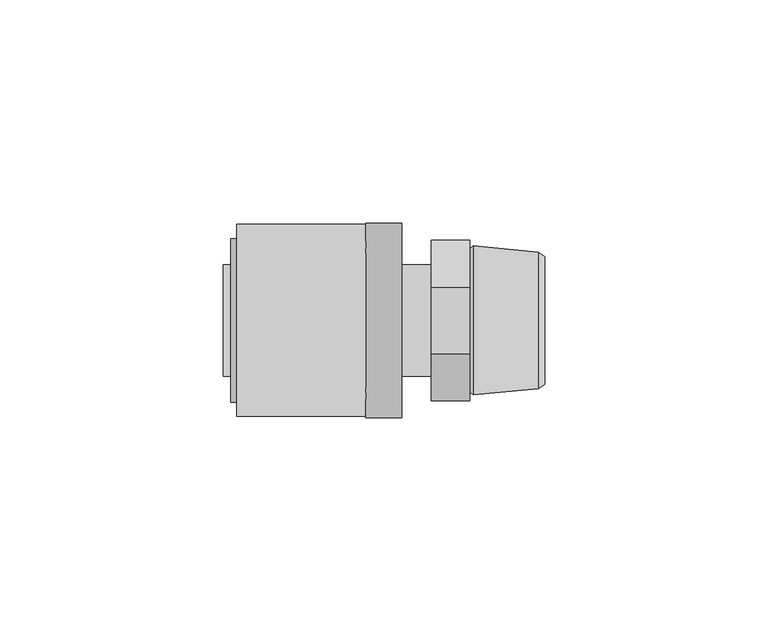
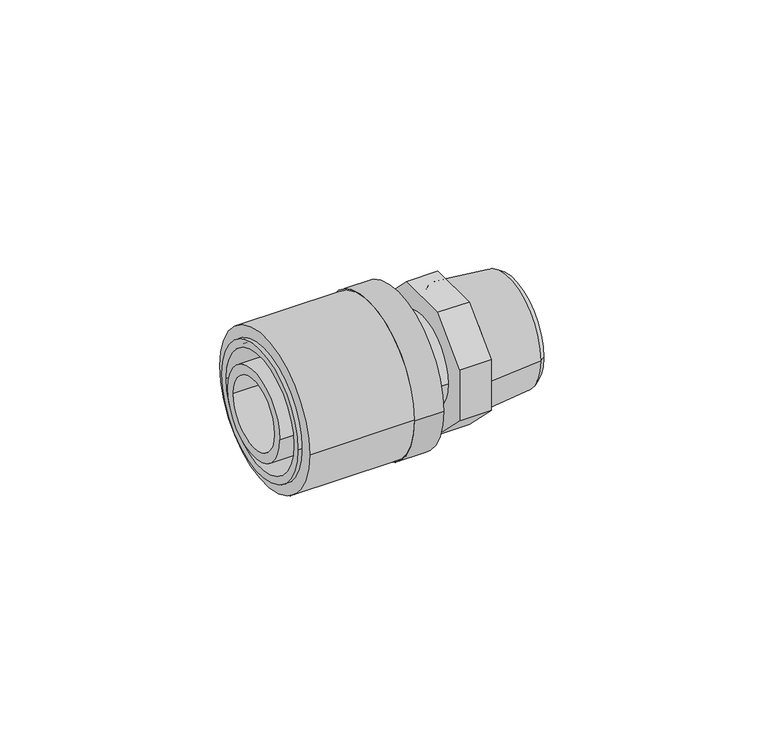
"""IFC4 building model written with IfcOpenShell, lengths in millimetres: pipe fitting geometry, FASTLOC_Adapter_LX, with external thread : FSL A C external CZ."""

from ifc_helpers import new_model, si_unit, point, frame, origin, origin_2d, place, context, project, spatial, polyline, circle_curve, trimmed, segment, composite_curve, outline, extrude, source, transform, mapped, element, save
from ifc_brep_helpers import plane_surface, cylinder_surface, revolved_surface, advanced_brep


def pipe_fitting_b01d00d0(model_context):
    return source(origin(), model_context, "Body", "SolidModel", [
        extrude(outline(composite_curve([segment(trimmed(circle_curve(origin_2d(), 21.5), [point((21.5, 0.0))], [point((-21.5, 0.0))], False, "CARTESIAN"), True, "CONTINUOUS"), segment(trimmed(circle_curve(origin_2d(), 21.5), [point((-21.5, 0.0))], [point((21.5, 0.0))], False, "CARTESIAN"), True, "CONTINUOUS")], self_intersect=False), holes=[composite_curve([segment(trimmed(circle_curve(origin_2d(), 16.85), [point((16.85, 0.0))], [point((-16.85, 0.0))], True, "CARTESIAN"), True, "CONTINUOUS"), segment(trimmed(circle_curve(origin_2d(), 16.85), [point((-16.85, 0.0))], [point((16.85, 0.0))], True, "CARTESIAN"), True, "CONTINUOUS")], self_intersect=False)]), frame((-43.6, 0.0, 0.0), z_axis=(1.0, 0.0, 0.0), x_axis=(0.0, 1.0, 0.0)), (0.0, 0.0, 1.0), 29.0),
        advanced_brep(
        [(-14.6, -21.8, 0.0), (-14.6, 21.8, 0.0), (-6.6, 21.8, 0.0), (-6.6, -21.8, 0.0), (-44.9, -18.35, 0.0), (-44.9, 18.35, 0.0), (-14.6, 18.35, 0.0), (-14.6, -18.35, 0.0), (-6.6, -16.2, 0.0), (-6.6, 16.2, 0.0), (-44.9, 16.2, 0.0), (-44.9, -16.2, 0.0)],
        [
            (0, 1, circle_curve(frame((-14.6, 0.0, 0.0), z_axis=(1.0, 0.0, 0.0), x_axis=(0.0, 1.0, 0.0)), 21.8)),
            (1, 2),
            (2, 3, circle_curve(frame((-6.6, 0.0, 0.0), z_axis=(-1.0, 0.0, 0.0), x_axis=(0.0, 1.0, 0.0)), 21.8)),
            (3, 0),
            (4, 5, circle_curve(frame((-44.9, 0.0, 0.0), z_axis=(1.0, 0.0, 0.0), x_axis=(0.0, 1.0, 0.0)), 18.35)),
            (5, 6),
            (6, 7, circle_curve(frame((-14.6, 0.0, 0.0), z_axis=(-1.0, 0.0, 0.0), x_axis=(0.0, 1.0, 0.0)), 18.35)),
            (7, 4),
            (8, 9, circle_curve(frame((-6.6, 0.0, 0.0), z_axis=(1.0, 0.0, 0.0), x_axis=(0.0, 1.0, 0.0)), 16.2)),
            (9, 10),
            (10, 11, circle_curve(frame((-44.9, 0.0, 0.0), z_axis=(-1.0, 0.0, 0.0), x_axis=(0.0, 1.0, 0.0)), 16.2)),
            (11, 8),
            (1, 0, circle_curve(frame((-14.6, 0.0, 0.0), z_axis=(1.0, 0.0, 0.0), x_axis=(0.0, -1.0, 0.0)), 21.8)),
            (3, 2, circle_curve(frame((-6.6, 0.0, 0.0), z_axis=(-1.0, 0.0, 0.0), x_axis=(0.0, -1.0, 0.0)), 21.8)),
            (6, 7, circle_curve(frame((-14.6, 0.0, 0.0), z_axis=(1.0, 0.0, 0.0), x_axis=(0.0, -1.0, 0.0)), 18.35)),
            (5, 4, circle_curve(frame((-44.9, 0.0, 0.0), z_axis=(1.0, 0.0, 0.0), x_axis=(0.0, -1.0, 0.0)), 18.35)),
            (10, 11, circle_curve(frame((-44.9, 0.0, 0.0), z_axis=(1.0, 0.0, 0.0), x_axis=(0.0, -1.0, 0.0)), 16.2)),
            (9, 8, circle_curve(frame((-6.6, 0.0, 0.0), z_axis=(1.0, 0.0, 0.0), x_axis=(0.0, -1.0, 0.0)), 16.2)),
        ],
        [
            cylinder_surface(frame((-6.6, 0.0, 0.0), z_axis=(-1.0, 0.0, 0.0), x_axis=(0.0, 1.0, 0.0)), 21.8),
            cylinder_surface(frame((-6.6, 0.0, 0.0), z_axis=(-1.0, 0.0, 0.0), x_axis=(0.0, 1.0, 0.0)), 18.35),
            revolved_surface(polyline([(-44.9, 16.2, 0.0), (-6.6, 16.2, 0.0)]), (-6.6, 0.0, 0.0), (-1.0, 0.0, 0.0)),
            cylinder_surface(frame((-6.6, 0.0, 0.0), z_axis=(-1.0, 0.0, 0.0), x_axis=(0.0, -1.0, 0.0)), 21.8),
            plane_surface(frame((-14.6, 0.0, 0.0), z_axis=(-1.0, 0.0, 0.0), x_axis=(0.0, -1.0, 0.0))),
            cylinder_surface(frame((-6.6, 0.0, 0.0), z_axis=(-1.0, 0.0, 0.0), x_axis=(0.0, -1.0, 0.0)), 18.35),
            plane_surface(frame((-44.9, 0.0, 0.0), z_axis=(-1.0, 0.0, 0.0), x_axis=(0.0, -1.0, 0.0))),
            revolved_surface(polyline([(-44.9, -16.2, 0.0), (-6.6, -16.2, 0.0)]), (-6.6, 0.0, 0.0), (-1.0, 0.0, 0.0)),
            plane_surface(frame((-6.6, 0.0, 0.0), z_axis=(1.0, 0.0, 0.0), x_axis=(0.0, -1.0, 0.0))),
        ],
        [
            (0, [[1, 2, 3, 4]]),
            (1, [[5, 6, 7, 8]]),
            (2, [[9, 10, 11, 12]]),
            (3, [[13, -4, 14, -2]]),
            (4, [[-13, -1], [15, -7]]),
            (5, [[16, -8, -15, -6]]),
            (6, [[-16, -5], [17, -11]]),
            (7, [[18, -12, -17, -10]]),
            (8, [[-14, -3], [-18, -9]]),
        ],
    ),
        advanced_brep(
        [(-14.6, 12.5, 0.0), (-14.6, -12.5, 0.0), (-46.6, -12.5, 0.0), (-46.6, 12.5, 0.0), (-11.6, 14.1, 0.0), (-11.6, -14.1, 0.0), (-14.6, -14.1, 0.0), (-14.6, 14.1, 0.0), (0.0, 12.5, 0.0), (0.0, -12.5, 0.0), (-11.6, -12.5, 0.0), (-11.6, 12.5, 0.0), (-46.6, 9.85, 0.0), (-46.6, -9.85, 0.0), (0.0, -9.85, 0.0), (0.0, 9.85, 0.0)],
        [
            (0, 1, circle_curve(frame((-14.6, 0.0, 0.0), z_axis=(-1.0, 0.0, 0.0), x_axis=(0.0, -1.0, 0.0)), 12.5)),
            (1, 2),
            (2, 3, circle_curve(frame((-46.6, 0.0, 0.0), z_axis=(1.0, 0.0, 0.0), x_axis=(0.0, -1.0, 0.0)), 12.5)),
            (3, 0),
            (4, 5, circle_curve(frame((-11.6, 0.0, 0.0), z_axis=(-1.0, 0.0, 0.0), x_axis=(0.0, -1.0, 0.0)), 14.1)),
            (5, 6),
            (6, 7, circle_curve(frame((-14.6, 0.0, 0.0), z_axis=(1.0, 0.0, 0.0), x_axis=(0.0, -1.0, 0.0)), 14.1)),
            (7, 4),
            (8, 9, circle_curve(frame((0.0, 0.0, 0.0), z_axis=(-1.0, 0.0, 0.0), x_axis=(0.0, -1.0, 0.0)), 12.5)),
            (9, 10),
            (10, 11, circle_curve(frame((-11.6, 0.0, 0.0), z_axis=(1.0, 0.0, 0.0), x_axis=(0.0, -1.0, 0.0)), 12.5)),
            (11, 8),
            (12, 13, circle_curve(frame((-46.6, 0.0, 0.0), z_axis=(-1.0, 0.0, 0.0), x_axis=(0.0, -1.0, 0.0)), 9.85)),
            (13, 14),
            (14, 15, circle_curve(frame((0.0, 0.0, 0.0), z_axis=(1.0, 0.0, 0.0), x_axis=(0.0, -1.0, 0.0)), 9.85)),
            (15, 12),
            (2, 3, circle_curve(frame((-46.6, 0.0, 0.0), z_axis=(-1.0, 0.0, 0.0), x_axis=(0.0, 1.0, 0.0)), 12.5)),
            (12, 13, circle_curve(frame((-46.6, 0.0, 0.0), z_axis=(1.0, 0.0, 0.0), x_axis=(0.0, 1.0, 0.0)), 9.85)),
            (1, 0, circle_curve(frame((-14.6, 0.0, 0.0), z_axis=(-1.0, 0.0, 0.0), x_axis=(0.0, 1.0, 0.0)), 12.5)),
            (6, 7, circle_curve(frame((-14.6, 0.0, 0.0), z_axis=(-1.0, 0.0, 0.0), x_axis=(0.0, 1.0, 0.0)), 14.1)),
            (5, 4, circle_curve(frame((-11.6, 0.0, 0.0), z_axis=(-1.0, 0.0, 0.0), x_axis=(0.0, 1.0, 0.0)), 14.1)),
            (10, 11, circle_curve(frame((-11.6, 0.0, 0.0), z_axis=(-1.0, 0.0, 0.0), x_axis=(0.0, 1.0, 0.0)), 12.5)),
            (9, 8, circle_curve(frame((0.0, 0.0, 0.0), z_axis=(-1.0, 0.0, 0.0), x_axis=(0.0, 1.0, 0.0)), 12.5)),
            (14, 15, circle_curve(frame((0.0, 0.0, 0.0), z_axis=(-1.0, 0.0, 0.0), x_axis=(0.0, 1.0, 0.0)), 9.85)),
        ],
        [
            cylinder_surface(frame((0.0, 0.0, 0.0), z_axis=(1.0, 0.0, 0.0), x_axis=(0.0, -1.0, 0.0)), 12.5),
            cylinder_surface(frame((0.0, 0.0, 0.0), z_axis=(1.0, 0.0, 0.0), x_axis=(0.0, -1.0, 0.0)), 14.1),
            revolved_surface(polyline([(0.0, -9.85, 0.0), (-46.6, -9.85, 0.0)]), (0.0, 0.0, 0.0), (1.0, 0.0, 0.0)),
            plane_surface(frame((-46.6, 0.0, 0.0), z_axis=(-1.0, 0.0, 0.0), x_axis=(0.0, 1.0, 0.0))),
            cylinder_surface(frame((0.0, 0.0, 0.0), z_axis=(1.0, 0.0, 0.0), x_axis=(0.0, 1.0, 0.0)), 12.5),
            plane_surface(frame((-14.6, 0.0, 0.0), z_axis=(-1.0, 0.0, 0.0), x_axis=(0.0, 1.0, 0.0))),
            cylinder_surface(frame((0.0, 0.0, 0.0), z_axis=(1.0, 0.0, 0.0), x_axis=(0.0, 1.0, 0.0)), 14.1),
            plane_surface(frame((-11.6, 0.0, 0.0), z_axis=(1.0, 0.0, 0.0), x_axis=(0.0, 1.0, 0.0))),
            plane_surface(frame((0.0, 0.0, 0.0), z_axis=(1.0, 0.0, 0.0), x_axis=(0.0, 1.0, 0.0))),
            revolved_surface(polyline([(0.0, 9.85, 0.0), (-46.6, 9.85, 0.0)]), (0.0, 0.0, 0.0), (1.0, 0.0, 0.0)),
        ],
        [
            (0, [[1, 2, 3, 4]]),
            (1, [[5, 6, 7, 8]]),
            (0, [[9, 10, 11, 12]]),
            (2, [[13, 14, 15, 16]]),
            (3, [[17, -3], [18, -13]]),
            (4, [[19, -4, -17, -2]]),
            (5, [[20, -7], [-19, -1]]),
            (6, [[21, -8, -20, -6]]),
            (7, [[-21, -5], [22, -11]]),
            (4, [[23, -12, -22, -10]]),
            (8, [[-23, -9], [24, -15]]),
            (9, [[-18, -16, -24, -14]]),
        ],
    ),
        advanced_brep(
        [(9.8032803, 12.0, 0.0), (9.8032803, -12.0, 0.0), (25.5, -12.0, 0.0), (25.5, 12.0, 0.0), (8.7, 10.8967197, 0.0), (8.7, -10.8967197, 0.0), (9.4406902, 16.7, 0.0), (9.4406902, -16.7, 0.0), (8.7, -16.1, 0.0), (8.7, 16.1, 0.0), (24.0000007, 15.3, 0.0), (24.0000007, -15.3, 0.0), (25.5, 14.3, 0.0), (25.5, -14.3, 0.0)],
        [
            (0, 1, circle_curve(frame((9.8032803, 0.0, 0.0), z_axis=(-1.0, 0.0, 0.0), x_axis=(0.0, -1.0, 0.0)), 12.0)),
            (1, 2),
            (2, 3, circle_curve(frame((25.5, 0.0, 0.0), z_axis=(1.0, 0.0, 0.0), x_axis=(0.0, -1.0, 0.0)), 12.0)),
            (3, 0),
            (4, 5, circle_curve(frame((8.7, 0.0, 0.0), z_axis=(-1.0, 0.0, 0.0), x_axis=(0.0, -1.0, 0.0)), 10.8967197)),
            (5, 1),
            (0, 4),
            (6, 7, circle_curve(frame((9.4406902, 0.0, 0.0), z_axis=(-1.0, 0.0, 0.0), x_axis=(0.0, -1.0, 0.0)), 16.7)),
            (7, 8),
            (8, 9, circle_curve(frame((8.7, 0.0, 0.0), z_axis=(1.0, 0.0, 0.0), x_axis=(0.0, -1.0, 0.0)), 16.1)),
            (9, 6),
            (10, 11, circle_curve(frame((24.0000007, 0.0, 0.0), z_axis=(-1.0, 0.0, 0.0), x_axis=(0.0, -1.0, 0.0)), 15.3)),
            (11, 7),
            (6, 10),
            (12, 13, circle_curve(frame((25.5, 0.0, 0.0), z_axis=(-1.0, 0.0, 0.0), x_axis=(0.0, -1.0, 0.0)), 14.3)),
            (13, 11),
            (10, 12),
            (1, 0, circle_curve(frame((9.8032803, 0.0, 0.0), z_axis=(-1.0, 0.0, 0.0), x_axis=(0.0, 1.0, 0.0)), 12.0)),
            (3, 2, circle_curve(frame((25.5, 0.0, 0.0), z_axis=(1.0, 0.0, 0.0), x_axis=(0.0, 1.0, 0.0)), 12.0)),
            (5, 4, circle_curve(frame((8.7, 0.0, 0.0), z_axis=(-1.0, 0.0, 0.0), x_axis=(0.0, 1.0, 0.0)), 10.8967197)),
            (8, 9, circle_curve(frame((8.7, 0.0, 0.0), z_axis=(-1.0, 0.0, 0.0), x_axis=(0.0, 1.0, 0.0)), 16.1)),
            (7, 6, circle_curve(frame((9.4406902, 0.0, 0.0), z_axis=(-1.0, 0.0, 0.0), x_axis=(0.0, 1.0, 0.0)), 16.7)),
            (11, 10, circle_curve(frame((24.0000007, 0.0, 0.0), z_axis=(-1.0, 0.0, 0.0), x_axis=(0.0, 1.0, 0.0)), 15.3)),
            (13, 12, circle_curve(frame((25.5, 0.0, 0.0), z_axis=(-1.0, 0.0, 0.0), x_axis=(0.0, 1.0, 0.0)), 14.3)),
        ],
        [
            revolved_surface(polyline([(25.5, -12.0, 0.0), (9.8032803, -12.0, 0.0)]), (0.0, 0.0, 0.0), (1.0, 0.0, 0.0)),
            revolved_surface(polyline([(9.8032803, -12.0, 0.0), (8.7, -10.8967197, 0.0)]), (0.0, 0.0, 0.0), (1.0, 0.0, 0.0)),
            revolved_surface(polyline([(8.7, -16.1, 0.0), (9.4406902, -16.7, 0.0)]), (0.0, 0.0, 0.0), (1.0, 0.0, 0.0)),
            revolved_surface(polyline([(9.4406902, -16.7, 0.0), (24.0000007, -15.3, 0.0)]), (0.0, 0.0, 0.0), (1.0, 0.0, 0.0)),
            revolved_surface(polyline([(24.0000007, -15.3, 0.0), (25.5, -14.3, 0.0)]), (0.0, 0.0, 0.0), (1.0, 0.0, 0.0)),
            revolved_surface(polyline([(25.5, 12.0, 0.0), (9.8032803, 12.0, 0.0)]), (0.0, 0.0, 0.0), (1.0, 0.0, 0.0)),
            revolved_surface(polyline([(9.8032803, 12.0, 0.0), (8.7, 10.8967197, 0.0)]), (0.0, 0.0, 0.0), (1.0, 0.0, 0.0)),
            plane_surface(frame((8.7, 0.0, 0.0), z_axis=(-1.0, 0.0, 0.0), x_axis=(0.0, 1.0, 0.0))),
            revolved_surface(polyline([(8.7, 16.1, 0.0), (9.4406902, 16.7, 0.0)]), (0.0, 0.0, 0.0), (1.0, 0.0, 0.0)),
            revolved_surface(polyline([(9.4406902, 16.7, 0.0), (24.0000007, 15.3, 0.0)]), (0.0, 0.0, 0.0), (1.0, 0.0, 0.0)),
            revolved_surface(polyline([(24.0000007, 15.3, 0.0), (25.5, 14.3, 0.0)]), (0.0, 0.0, 0.0), (1.0, 0.0, 0.0)),
            plane_surface(frame((25.5, 0.0, 0.0), z_axis=(1.0, 0.0, 0.0), x_axis=(0.0, 1.0, 0.0))),
        ],
        [
            (0, [[1, 2, 3, 4]]),
            (1, [[5, 6, -1, 7]]),
            (2, [[8, 9, 10, 11]]),
            (3, [[12, 13, -8, 14]]),
            (4, [[15, 16, -12, 17]]),
            (5, [[18, -4, 19, -2]]),
            (6, [[20, -7, -18, -6]]),
            (7, [[21, -10], [-20, -5]]),
            (8, [[22, -11, -21, -9]]),
            (9, [[23, -14, -22, -13]]),
            (10, [[24, -17, -23, -16]]),
            (11, [[-24, -15], [-19, -3]]),
        ],
    ),
        extrude(outline(polyline([(-18.0, 7.4558441), (-7.4558441, 18.0), (7.4558441, 18.0), (18.0, 7.4558441), (18.0, -7.4558441), (7.4558441, -18.0), (-7.4558441, -18.0), (-18.0, -7.4558441), (-18.0, 7.4558441)])), frame((0.0, 0.0, 0.0), z_axis=(1.0, 0.0, 0.0), x_axis=(0.0, 1.0, 0.0)), (0.0, 0.0, 1.0), 8.7),
    ])


if __name__ == "__main__":
    model = new_model("IFC4")
    model_context = context("Model", 3, world=origin())
    ifc_project = project(units=[si_unit("LENGTHUNIT", "METRE", prefix="MILLI")], contexts=[model_context])
    site = spatial("IfcSite", under=ifc_project)
    building = spatial("IfcBuilding", under=site)
    placement = place(None, origin())
    pipe_fitting_shape = pipe_fitting_b01d00d0(model_context)
    element("IfcPipeFitting", 1, ObjectType="FASTLOC_Adapter_LX, with external thread : FSL A C external CZ", at=placement, inside=building, context=model_context, shape_type="MappedRepresentation", body=[
        mapped(pipe_fitting_shape, transform((0.0, 0.0, 0.0), x_axis=(1.0, 0.0, 0.0), y_axis=(0.0, 1.0, 0.0), z_axis=(0.0, 0.0, 1.0))),
    ])
    save(model, "model.ifc")
